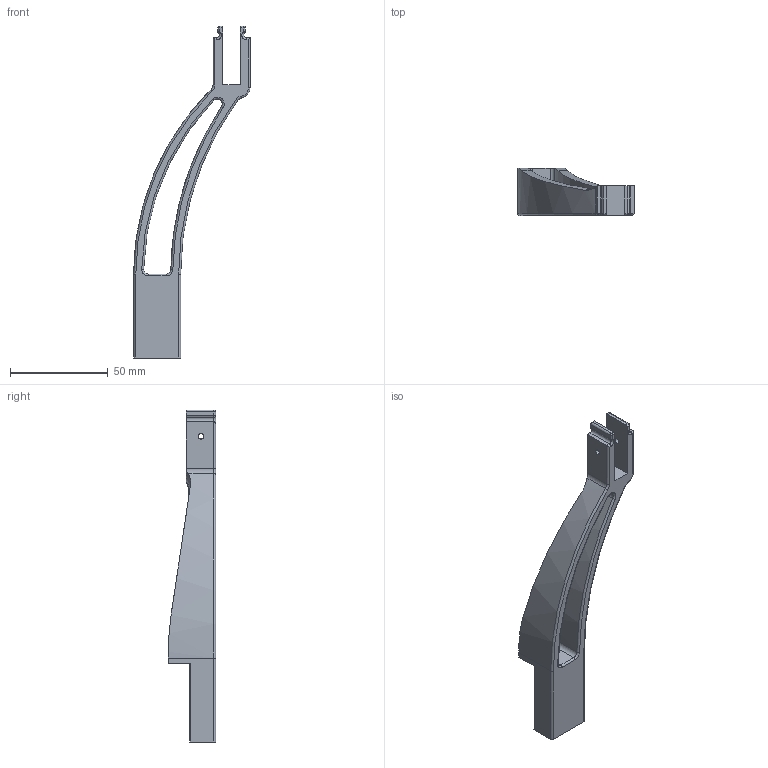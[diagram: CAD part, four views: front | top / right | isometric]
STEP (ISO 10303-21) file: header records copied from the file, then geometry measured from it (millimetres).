
FILE_DESCRIPTION (( 'STEP AP203' ), '1' );
FILE_NAME ('DBP_UPPER_ROLLER_GUIDE_V3r1.STEP', '2018-11-08T15:22:23', ( '' ), ( '' ), 'SwSTEP 2.0', 'SolidWorks 2015', '' );
FILE_SCHEMA (( 'CONFIG_CONTROL_DESIGN' ));
Length unit declared in the file: inch
Products named in the file (1): DBP_UPPER_ROLLER_GUIDE_V3r1
Bounding box: 59.55 x 24.2 x 170 mm (x, y, z)
Volume: 29646.6 mm3; surface area: 17587.6 mm2
Topology: 1 solids, 1 shells, 96 faces, 260 edges, 161 vertices
Faces by surface type: cylinder 44, plane 35, torus 12, sphere 4, bspline 1
Entity records: 3223 total; most frequent: CARTESIAN_POINT 709, DIRECTION 527, ORIENTED_EDGE 512, EDGE_CURVE 256, AXIS2_PLACEMENT_3D 195, VERTEX_POINT 161, LINE 137, VECTOR 137
